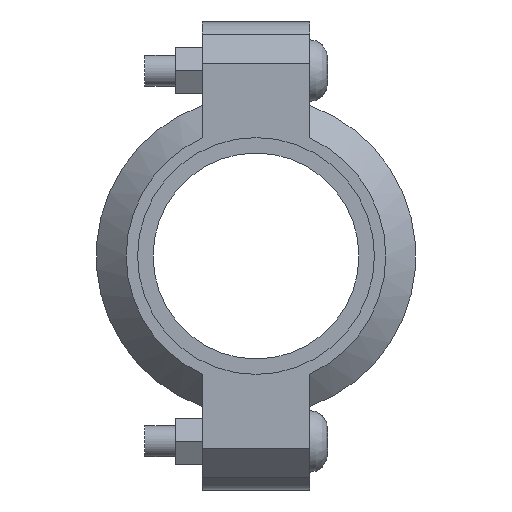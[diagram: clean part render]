
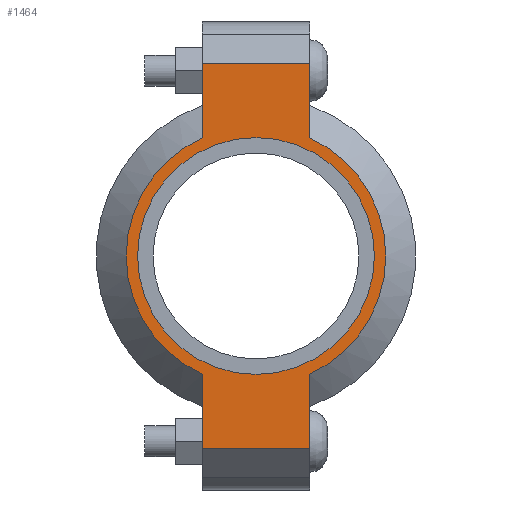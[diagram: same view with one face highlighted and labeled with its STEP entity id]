
A CAD part, left-side view. The second image highlights one B-rep face of the part: STEP entity #1464.
In plain terms, the highlighted planar face has unit normal (-1, 0, 0) as drawn and (0, 0, 1) by its records, which use the part's own axes.
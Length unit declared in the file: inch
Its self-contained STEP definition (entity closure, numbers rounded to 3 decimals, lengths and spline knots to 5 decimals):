
#144=LINE('',#2539,#235);
#152=LINE('',#2575,#243);
#159=LINE('',#2596,#250);
#168=LINE('',#2628,#259);
#169=LINE('',#2632,#260);
#170=LINE('',#2634,#261);
#235=VECTOR('',#2057,0.3937);
#243=VECTOR('',#2073,0.3937);
#250=VECTOR('',#2092,0.3937);
#259=VECTOR('',#2117,0.3937);
#260=VECTOR('',#2122,0.3937);
#261=VECTOR('',#2123,0.3937);
#313=FACE_BOUND('',#473,.T.);
#377=FACE_OUTER_BOUND('',#472,.T.);
#472=EDGE_LOOP('',(#1199,#1200,#1201,#1202,#1203,#1204,#1205,#1206));
#473=EDGE_LOOP('',(#1207));
#570=CIRCLE('',#1725,1.575);
#571=CIRCLE('',#1726,1.575);
#572=CIRCLE('',#1727,1.4375);
#675=VERTEX_POINT('',#2536);
#676=VERTEX_POINT('',#2538);
#687=VERTEX_POINT('',#2570);
#688=VERTEX_POINT('',#2574);
#695=VERTEX_POINT('',#2593);
#696=VERTEX_POINT('',#2595);
#706=VERTEX_POINT('',#2631);
#707=VERTEX_POINT('',#2633);
#708=VERTEX_POINT('',#2636);
#839=EDGE_CURVE('',#676,#675,#144,.T.);
#853=EDGE_CURVE('',#688,#687,#152,.T.);
#863=EDGE_CURVE('',#696,#695,#159,.T.);
#878=EDGE_CURVE('',#688,#675,#168,.T.);
#879=EDGE_CURVE('',#687,#696,#570,.T.);
#880=EDGE_CURVE('',#706,#695,#169,.T.);
#881=EDGE_CURVE('',#706,#707,#170,.T.);
#882=EDGE_CURVE('',#707,#676,#571,.T.);
#883=EDGE_CURVE('',#708,#708,#572,.T.);
#1199=ORIENTED_EDGE('',*,*,#878,.F.);
#1200=ORIENTED_EDGE('',*,*,#853,.T.);
#1201=ORIENTED_EDGE('',*,*,#879,.T.);
#1202=ORIENTED_EDGE('',*,*,#863,.T.);
#1203=ORIENTED_EDGE('',*,*,#880,.F.);
#1204=ORIENTED_EDGE('',*,*,#881,.T.);
#1205=ORIENTED_EDGE('',*,*,#882,.T.);
#1206=ORIENTED_EDGE('',*,*,#839,.T.);
#1207=ORIENTED_EDGE('',*,*,#883,.T.);
#1318=PLANE('',#1724);
#1464=ADVANCED_FACE('',(#377,#313),#1318,.T.);
#1724=AXIS2_PLACEMENT_3D('',#2629,#2118,#2119);
#1725=AXIS2_PLACEMENT_3D('',#2630,#2120,#2121);
#1726=AXIS2_PLACEMENT_3D('',#2635,#2124,#2125);
#1727=AXIS2_PLACEMENT_3D('',#2637,#2126,#2127);
#2057=DIRECTION('',(1.,0.,0.));
#2073=DIRECTION('',(-1.,0.,0.));
#2092=DIRECTION('',(-1.,0.,0.));
#2117=DIRECTION('',(0.,-1.,0.));
#2118=DIRECTION('center_axis',(0.,0.,1.));
#2119=DIRECTION('ref_axis',(-1.,0.,0.));
#2120=DIRECTION('center_axis',(0.,0.,1.));
#2121=DIRECTION('ref_axis',(1.,0.,0.));
#2122=DIRECTION('',(0.,1.,0.));
#2123=DIRECTION('',(1.,0.,0.));
#2124=DIRECTION('center_axis',(0.,0.,1.));
#2125=DIRECTION('ref_axis',(1.,0.,0.));
#2126=DIRECTION('center_axis',(0.,0.,-1.));
#2127=DIRECTION('ref_axis',(1.,0.,0.));
#2536=CARTESIAN_POINT('',(2.34,-0.65,0.94));
#2538=CARTESIAN_POINT('',(1.43462,-0.65,0.94));
#2539=CARTESIAN_POINT('',(2.84,-0.65,0.94));
#2570=CARTESIAN_POINT('',(1.43462,0.65,0.94));
#2574=CARTESIAN_POINT('',(2.34,0.65,0.94));
#2575=CARTESIAN_POINT('',(-2.84,0.65,0.94));
#2593=CARTESIAN_POINT('',(-2.34,0.65,0.94));
#2595=CARTESIAN_POINT('',(-1.43462,0.65,0.94));
#2596=CARTESIAN_POINT('',(-2.84,0.65,0.94));
#2628=CARTESIAN_POINT('',(2.34,-0.325,0.94));
#2629=CARTESIAN_POINT('Origin',(0.,0.,
0.94));
#2630=CARTESIAN_POINT('Origin',(0.,0.,0.94));
#2631=CARTESIAN_POINT('',(-2.34,-0.65,0.94));
#2632=CARTESIAN_POINT('',(-2.34,0.325,0.94));
#2633=CARTESIAN_POINT('',(-1.43462,-0.65,0.94));
#2634=CARTESIAN_POINT('',(2.84,-0.65,0.94));
#2635=CARTESIAN_POINT('Origin',(0.,0.,0.94));
#2636=CARTESIAN_POINT('',(-1.4375,0.,0.94));
#2637=CARTESIAN_POINT('Origin',(0.,0.,0.94));
